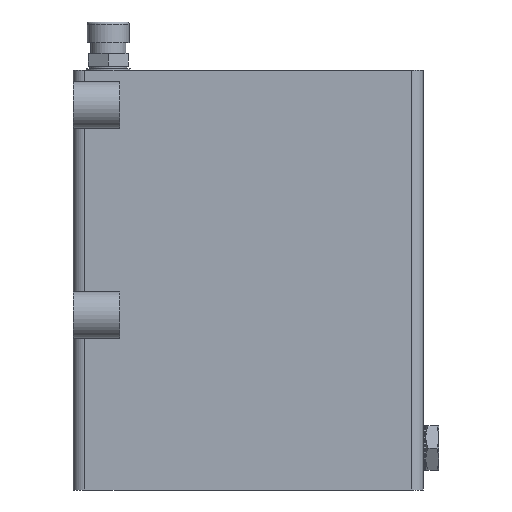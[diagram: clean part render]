
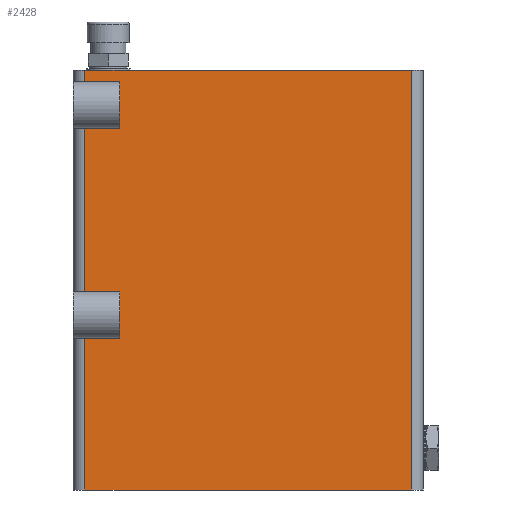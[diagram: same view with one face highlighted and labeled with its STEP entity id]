
A CAD part, left-side view. The second image highlights one B-rep face of the part: STEP entity #2428.
In plain terms, the highlighted planar face has unit normal (-1, 0, 0).
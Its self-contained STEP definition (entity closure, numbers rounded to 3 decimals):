
#170=LINE('',#3337,#258);
#193=LINE('',#3428,#281);
#202=LINE('',#3454,#290);
#203=LINE('',#3456,#291);
#258=VECTOR('',#2803,1000.);
#281=VECTOR('',#2876,1000.);
#290=VECTOR('',#2905,1000.);
#291=VECTOR('',#2908,1000.);
#426=ORIENTED_EDGE('',*,*,#824,.T.);
#427=ORIENTED_EDGE('',*,*,#810,.F.);
#428=ORIENTED_EDGE('',*,*,#765,.F.);
#429=ORIENTED_EDGE('',*,*,#823,.T.);
#765=EDGE_CURVE('',#971,#964,#170,.T.);
#810=EDGE_CURVE('',#964,#1013,#193,.T.);
#823=EDGE_CURVE('',#971,#1021,#202,.T.);
#824=EDGE_CURVE('',#1021,#1013,#203,.T.);
#964=VERTEX_POINT('',#3323);
#971=VERTEX_POINT('',#3336);
#1013=VERTEX_POINT('',#3425);
#1021=VERTEX_POINT('',#3453);
#1232=EDGE_LOOP('',(#426,#427,#428,#429));
#1410=FACE_BOUND('',#1232,.T.);
#1571=PLANE('',#2604);
#2428=ADVANCED_FACE('',(#1410),#1571,.F.);
#2604=AXIS2_PLACEMENT_3D('',#3455,#2906,#2907);
#2803=DIRECTION('',(0.,-1.,0.));
#2876=DIRECTION('',(0.,0.,-1.));
#2905=DIRECTION('',(0.,0.,-1.));
#2906=DIRECTION('',(1.,0.,0.));
#2907=DIRECTION('',(0.,1.,0.));
#2908=DIRECTION('',(0.,-1.,0.));
#3323=CARTESIAN_POINT('',(-50.,-70.,180.));
#3336=CARTESIAN_POINT('',(-50.,70.,180.));
#3337=CARTESIAN_POINT('',(-50.,70.,180.));
#3425=CARTESIAN_POINT('',(-50.,-70.,0.));
#3428=CARTESIAN_POINT('',(-50.,-70.,180.));
#3453=CARTESIAN_POINT('',(-50.,70.,0.));
#3454=CARTESIAN_POINT('',(-50.,70.,180.));
#3455=CARTESIAN_POINT('',(-50.,70.,180.));
#3456=CARTESIAN_POINT('',(-50.,70.,0.));
